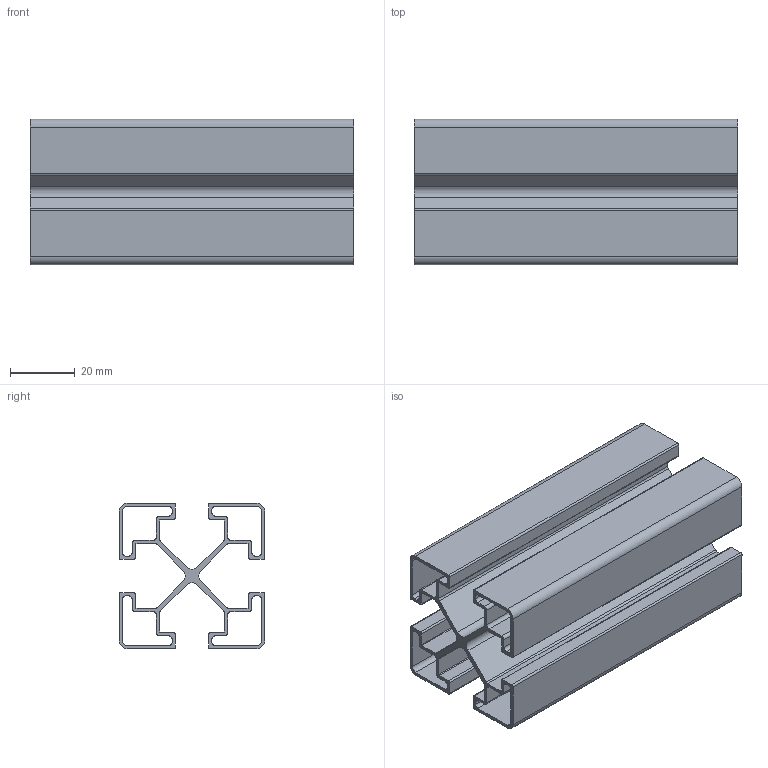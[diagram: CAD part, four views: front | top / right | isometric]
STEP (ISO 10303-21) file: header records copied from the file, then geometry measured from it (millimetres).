
FILE_DESCRIPTION (( 'STEP AP214' ), '1' );
FILE_NAME ('084.106.011.STEP', '2020-07-23T08:10:14', ( '' ), ( '' ), 'SwSTEP 2.0', 'SolidWorks 2018', '' );
FILE_SCHEMA (( 'AUTOMOTIVE_DESIGN' ));
Length unit declared in the file: millimetre
Products named in the file (1): 084.106.011
Bounding box: 100 x 45 x 45 mm (x, y, z)
Volume: 35034.2 mm3; surface area: 60721.7 mm2
Topology: 1 solids, 1 shells, 147 faces, 435 edges, 290 vertices
Faces by surface type: plane 74, cylinder 73
Entity records: 5005 total; most frequent: DIRECTION 877, CARTESIAN_POINT 873, ORIENTED_EDGE 870, EDGE_CURVE 435, AXIS2_PLACEMENT_3D 294, VERTEX_POINT 290, LINE 289, VECTOR 289
